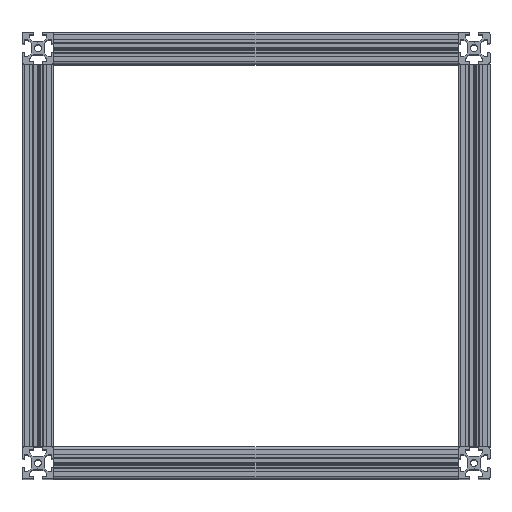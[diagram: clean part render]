
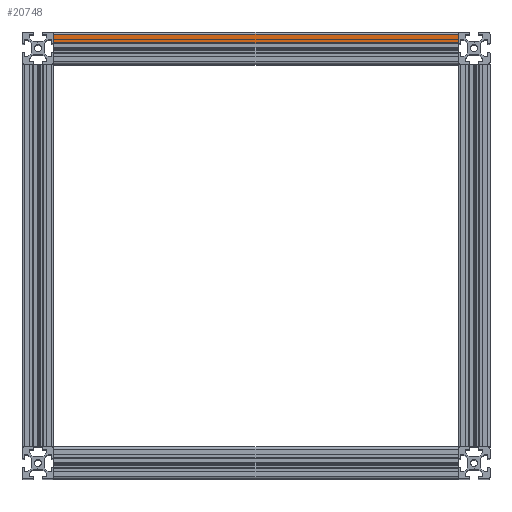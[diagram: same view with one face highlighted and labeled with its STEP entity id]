
A CAD part, top view. The second image highlights one B-rep face of the part: STEP entity #20748.
In plain terms, the highlighted planar face has unit normal (0, 0, 1) as drawn and (-1, 0, 0) by its records, which use the part's own axes.
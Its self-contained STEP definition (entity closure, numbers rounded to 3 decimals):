
#15305 = PLANE('',#15306);
#15306 = AXIS2_PLACEMENT_3D('',#15307,#15308,#15309);
#15307 = CARTESIAN_POINT('',(0.,0.,380.));
#15308 = DIRECTION('',(0.,0.,1.));
#15309 = DIRECTION('',(1.,0.,0.));
#15359 = PLANE('',#15360);
#15360 = AXIS2_PLACEMENT_3D('',#15361,#15362,#15363);
#15361 = CARTESIAN_POINT('',(0.,0.,0.));
#15362 = DIRECTION('',(0.,-0.,1.));
#15363 = DIRECTION('',(1.,0.,0.));
#20608 = CYLINDRICAL_SURFACE('',#20609,2.);
#20609 = AXIS2_PLACEMENT_3D('',#20610,#20611,#20612);
#20610 = CARTESIAN_POINT('',(-13.,13.,0.));
#20611 = DIRECTION('',(0.,0.,-1.));
#20612 = DIRECTION('',(1.,0.,0.));
#20666 = EDGE_CURVE('',#20667,#20669,#20671,.T.);
#20667 = VERTEX_POINT('',#20668);
#20668 = CARTESIAN_POINT('',(-15.,13.,0.));
#20669 = VERTEX_POINT('',#20670);
#20670 = CARTESIAN_POINT('',(-15.,13.,380.));
#20671 = SURFACE_CURVE('',#20672,(#20676,#20683),.PCURVE_S1.);
#20672 = LINE('',#20673,#20674);
#20673 = CARTESIAN_POINT('',(-15.,13.,0.));
#20674 = VECTOR('',#20675,1.);
#20675 = DIRECTION('',(0.,0.,1.));
#20676 = PCURVE('',#20608,#20677);
#20677 = DEFINITIONAL_REPRESENTATION('',(#20678),#20682);
#20678 = LINE('',#20679,#20680);
#20679 = CARTESIAN_POINT('',(3.142,0.));
#20680 = VECTOR('',#20681,1.);
#20681 = DIRECTION('',(0.,-1.));
#20682 = ( GEOMETRIC_REPRESENTATION_CONTEXT(2) 
PARAMETRIC_REPRESENTATION_CONTEXT() REPRESENTATION_CONTEXT('2D SPACE',''
  ) );
#20683 = PCURVE('',#20684,#20689);
#20684 = PLANE('',#20685);
#20685 = AXIS2_PLACEMENT_3D('',#20686,#20687,#20688);
#20686 = CARTESIAN_POINT('',(-15.,4.8,0.));
#20687 = DIRECTION('',(-1.,0.,0.));
#20688 = DIRECTION('',(0.,1.,0.));
#20689 = DEFINITIONAL_REPRESENTATION('',(#20690),#20694);
#20690 = LINE('',#20691,#20692);
#20691 = CARTESIAN_POINT('',(8.2,0.));
#20692 = VECTOR('',#20693,1.);
#20693 = DIRECTION('',(0.,-1.));
#20694 = ( GEOMETRIC_REPRESENTATION_CONTEXT(2) 
PARAMETRIC_REPRESENTATION_CONTEXT() REPRESENTATION_CONTEXT('2D SPACE',''
  ) );
#20748 = ADVANCED_FACE('',(#20749),#20684,.T.);
#20749 = FACE_BOUND('',#20750,.T.);
#20750 = EDGE_LOOP('',(#20751,#20781,#20802,#20803));
#20751 = ORIENTED_EDGE('',*,*,#20752,.T.);
#20752 = EDGE_CURVE('',#20753,#20755,#20757,.T.);
#20753 = VERTEX_POINT('',#20754);
#20754 = CARTESIAN_POINT('',(-15.,4.8,0.));
#20755 = VERTEX_POINT('',#20756);
#20756 = CARTESIAN_POINT('',(-15.,4.8,380.));
#20757 = SURFACE_CURVE('',#20758,(#20762,#20769),.PCURVE_S1.);
#20758 = LINE('',#20759,#20760);
#20759 = CARTESIAN_POINT('',(-15.,4.8,0.));
#20760 = VECTOR('',#20761,1.);
#20761 = DIRECTION('',(0.,0.,1.));
#20762 = PCURVE('',#20684,#20763);
#20763 = DEFINITIONAL_REPRESENTATION('',(#20764),#20768);
#20764 = LINE('',#20765,#20766);
#20765 = CARTESIAN_POINT('',(0.,0.));
#20766 = VECTOR('',#20767,1.);
#20767 = DIRECTION('',(0.,-1.));
#20768 = ( GEOMETRIC_REPRESENTATION_CONTEXT(2) 
PARAMETRIC_REPRESENTATION_CONTEXT() REPRESENTATION_CONTEXT('2D SPACE',''
  ) );
#20769 = PCURVE('',#20770,#20775);
#20770 = CYLINDRICAL_SURFACE('',#20771,0.8);
#20771 = AXIS2_PLACEMENT_3D('',#20772,#20773,#20774);
#20772 = CARTESIAN_POINT('',(-14.2,4.8,0.));
#20773 = DIRECTION('',(0.,0.,-1.));
#20774 = DIRECTION('',(1.,0.,0.));
#20775 = DEFINITIONAL_REPRESENTATION('',(#20776),#20780);
#20776 = LINE('',#20777,#20778);
#20777 = CARTESIAN_POINT('',(3.142,0.));
#20778 = VECTOR('',#20779,1.);
#20779 = DIRECTION('',(0.,-1.));
#20780 = ( GEOMETRIC_REPRESENTATION_CONTEXT(2) 
PARAMETRIC_REPRESENTATION_CONTEXT() REPRESENTATION_CONTEXT('2D SPACE',''
  ) );
#20781 = ORIENTED_EDGE('',*,*,#20782,.T.);
#20782 = EDGE_CURVE('',#20755,#20669,#20783,.T.);
#20783 = SURFACE_CURVE('',#20784,(#20788,#20795),.PCURVE_S1.);
#20784 = LINE('',#20785,#20786);
#20785 = CARTESIAN_POINT('',(-15.,6.5,380.));
#20786 = VECTOR('',#20787,1.);
#20787 = DIRECTION('',(0.,1.,0.));
#20788 = PCURVE('',#20684,#20789);
#20789 = DEFINITIONAL_REPRESENTATION('',(#20790),#20794);
#20790 = LINE('',#20791,#20792);
#20791 = CARTESIAN_POINT('',(1.7,-380.));
#20792 = VECTOR('',#20793,1.);
#20793 = DIRECTION('',(1.,0.));
#20794 = ( GEOMETRIC_REPRESENTATION_CONTEXT(2) 
PARAMETRIC_REPRESENTATION_CONTEXT() REPRESENTATION_CONTEXT('2D SPACE',''
  ) );
#20795 = PCURVE('',#15305,#20796);
#20796 = DEFINITIONAL_REPRESENTATION('',(#20797),#20801);
#20797 = LINE('',#20798,#20799);
#20798 = CARTESIAN_POINT('',(-15.,6.5));
#20799 = VECTOR('',#20800,1.);
#20800 = DIRECTION('',(0.,1.));
#20801 = ( GEOMETRIC_REPRESENTATION_CONTEXT(2) 
PARAMETRIC_REPRESENTATION_CONTEXT() REPRESENTATION_CONTEXT('2D SPACE',''
  ) );
#20802 = ORIENTED_EDGE('',*,*,#20666,.F.);
#20803 = ORIENTED_EDGE('',*,*,#20804,.F.);
#20804 = EDGE_CURVE('',#20753,#20667,#20805,.T.);
#20805 = SURFACE_CURVE('',#20806,(#20810,#20817),.PCURVE_S1.);
#20806 = LINE('',#20807,#20808);
#20807 = CARTESIAN_POINT('',(-15.,6.5,0.));
#20808 = VECTOR('',#20809,1.);
#20809 = DIRECTION('',(0.,1.,0.));
#20810 = PCURVE('',#20684,#20811);
#20811 = DEFINITIONAL_REPRESENTATION('',(#20812),#20816);
#20812 = LINE('',#20813,#20814);
#20813 = CARTESIAN_POINT('',(1.7,0.));
#20814 = VECTOR('',#20815,1.);
#20815 = DIRECTION('',(1.,0.));
#20816 = ( GEOMETRIC_REPRESENTATION_CONTEXT(2) 
PARAMETRIC_REPRESENTATION_CONTEXT() REPRESENTATION_CONTEXT('2D SPACE',''
  ) );
#20817 = PCURVE('',#15359,#20818);
#20818 = DEFINITIONAL_REPRESENTATION('',(#20819),#20823);
#20819 = LINE('',#20820,#20821);
#20820 = CARTESIAN_POINT('',(-15.,6.5));
#20821 = VECTOR('',#20822,1.);
#20822 = DIRECTION('',(0.,1.));
#20823 = ( GEOMETRIC_REPRESENTATION_CONTEXT(2) 
PARAMETRIC_REPRESENTATION_CONTEXT() REPRESENTATION_CONTEXT('2D SPACE',''
  ) );
